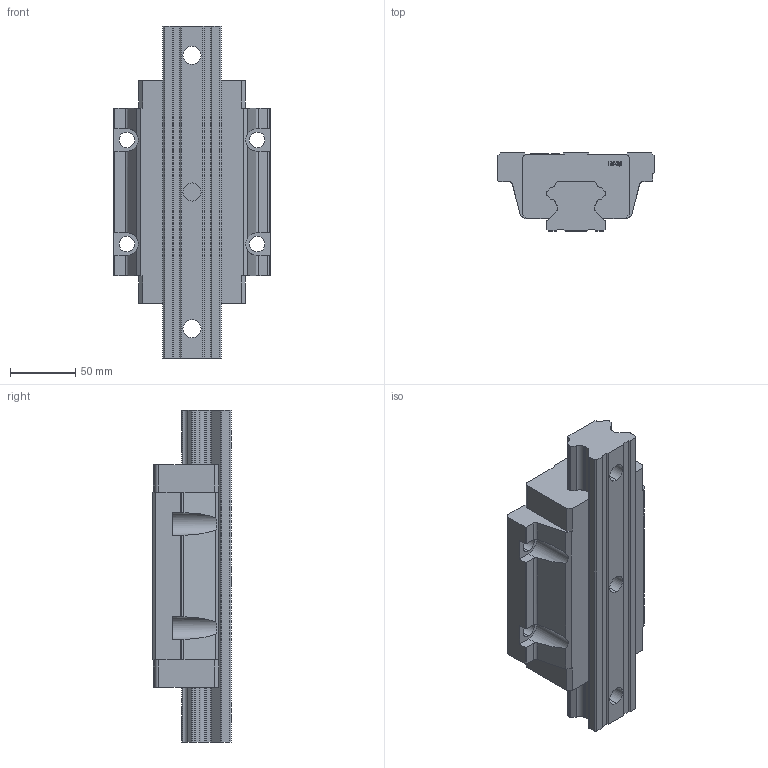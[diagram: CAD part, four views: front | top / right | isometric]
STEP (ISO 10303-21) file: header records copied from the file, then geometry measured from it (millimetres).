
FILE_DESCRIPTION (( 'STEP AP214' ), '1' );
FILE_NAME ('7.1013 Lineaarikelkka HTW45HA.STEP', '2026-03-11T11:19:25', ( '' ), ( '' ), 'SwSTEP 2.0', 'SolidWorks 2025', '' );
FILE_SCHEMA (( 'AUTOMOTIVE_DESIGN' ));
Length unit declared in the file: millimetre
Products named in the file (3): 7.1013 Lineaarikelkka HTW45HA; HTW45H; HTR45
Assembly tree (2 placements, depth 2):
  7.1013 Lineaarikelkka HTW45HA
    HTW45H
    HTR45
Bounding box: 120 x 60 x 255 mm (x, y, z)
Volume: 979966.1 mm3; surface area: 126725.9 mm2
Topology: 2 solids, 2 shells, 767 faces, 2175 edges, 1450 vertices
Faces by surface type: plane 680, cylinder 66, bspline 21
Entity records: 34650 total; most frequent: CARTESIAN_POINT 6194, ORIENTED_EDGE 4350, DIRECTION 3743, EDGE_CURVE 2175, VECTOR 1985, LINE 1985, VERTEX_POINT 1450, AXIS2_PLACEMENT_3D 879
